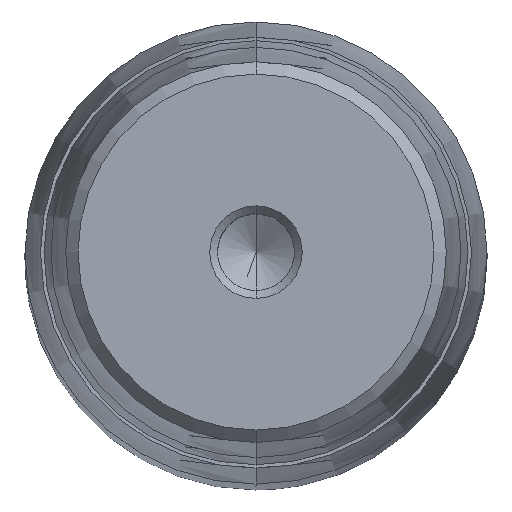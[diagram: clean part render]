
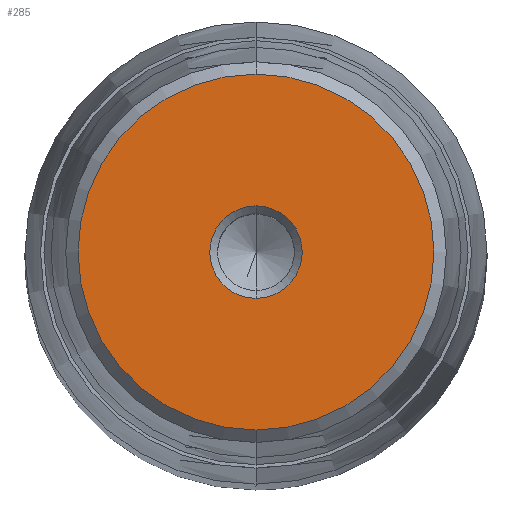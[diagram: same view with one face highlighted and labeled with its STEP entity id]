
A CAD part, top view. The second image highlights one B-rep face of the part: STEP entity #285.
In plain terms, the highlighted planar face has unit normal (0, 0, 1).
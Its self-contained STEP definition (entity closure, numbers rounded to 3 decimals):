
#164=CARTESIAN_POINT('Axis2P3D Location',(0.,0.,48.)) ;
#168=CARTESIAN_POINT('Vertex',(4.,0.,48.)) ;
#170=CARTESIAN_POINT('Vertex',(0.,-4.,48.)) ;
#173=CARTESIAN_POINT('Axis2P3D Location',(0.,0.,48.)) ;
#177=CARTESIAN_POINT('Vertex',(0.,4.,48.)) ;
#228=CARTESIAN_POINT('Axis2P3D Location',(0.,4.,48.)) ;
#233=CARTESIAN_POINT('Axis2P3D Location',(0.,0.,48.)) ;
#237=CARTESIAN_POINT('Vertex',(0.,15.4,48.)) ;
#239=CARTESIAN_POINT('Vertex',(15.4,0.,48.)) ;
#242=CARTESIAN_POINT('Axis2P3D Location',(0.,0.,48.)) ;
#246=CARTESIAN_POINT('Vertex',(-15.4,0.,48.)) ;
#249=CARTESIAN_POINT('Axis2P3D Location',(0.,0.,48.)) ;
#253=CARTESIAN_POINT('Vertex',(0.,-15.4,48.)) ;
#256=CARTESIAN_POINT('Axis2P3D Location',(0.,0.,48.)) ;
#267=CARTESIAN_POINT('Axis2P3D Location',(0.,0.,48.)) ;
#271=CARTESIAN_POINT('Vertex',(-4.,0.,48.)) ;
#274=CARTESIAN_POINT('Axis2P3D Location',(0.,0.,48.)) ;
#165=DIRECTION('Axis2P3D Direction',(-0.,0.,1.)) ;
#174=DIRECTION('Axis2P3D Direction',(-0.,0.,1.)) ;
#229=DIRECTION('Axis2P3D Direction',(0.,0.,-1.)) ;
#230=DIRECTION('Axis2P3D XDirection',(0.,1.,0.)) ;
#234=DIRECTION('Axis2P3D Direction',(0.,0.,-1.)) ;
#243=DIRECTION('Axis2P3D Direction',(0.,0.,-1.)) ;
#250=DIRECTION('Axis2P3D Direction',(0.,0.,-1.)) ;
#257=DIRECTION('Axis2P3D Direction',(0.,0.,-1.)) ;
#268=DIRECTION('Axis2P3D Direction',(0.,0.,-1.)) ;
#275=DIRECTION('Axis2P3D Direction',(0.,0.,-1.)) ;
#166=AXIS2_PLACEMENT_3D('Circle Axis2P3D',#164,#165,$) ;
#175=AXIS2_PLACEMENT_3D('Circle Axis2P3D',#173,#174,$) ;
#231=AXIS2_PLACEMENT_3D('Plane Axis2P3D',#228,#229,#230) ;
#235=AXIS2_PLACEMENT_3D('Circle Axis2P3D',#233,#234,$) ;
#244=AXIS2_PLACEMENT_3D('Circle Axis2P3D',#242,#243,$) ;
#251=AXIS2_PLACEMENT_3D('Circle Axis2P3D',#249,#250,$) ;
#258=AXIS2_PLACEMENT_3D('Circle Axis2P3D',#256,#257,$) ;
#269=AXIS2_PLACEMENT_3D('Circle Axis2P3D',#267,#268,$) ;
#276=AXIS2_PLACEMENT_3D('Circle Axis2P3D',#274,#275,$) ;
#262=ORIENTED_EDGE('',*,*,#241,.F.) ;
#263=ORIENTED_EDGE('',*,*,#248,.F.) ;
#264=ORIENTED_EDGE('',*,*,#255,.F.) ;
#265=ORIENTED_EDGE('',*,*,#260,.F.) ;
#280=ORIENTED_EDGE('',*,*,#172,.T.) ;
#281=ORIENTED_EDGE('',*,*,#273,.T.) ;
#282=ORIENTED_EDGE('',*,*,#278,.T.) ;
#283=ORIENTED_EDGE('',*,*,#179,.T.) ;
#284=FACE_BOUND('',#279,.T.) ;
#285=ADVANCED_FACE('722-40x315x348',(#266,#284),#232,.F.) ;
#167=CIRCLE('generated circle',#166,4.) ;
#176=CIRCLE('generated circle',#175,4.) ;
#236=CIRCLE('generated circle',#235,15.4) ;
#245=CIRCLE('generated circle',#244,15.4) ;
#252=CIRCLE('generated circle',#251,15.4) ;
#259=CIRCLE('generated circle',#258,15.4) ;
#270=CIRCLE('generated circle',#269,4.) ;
#277=CIRCLE('generated circle',#276,4.) ;
#172=EDGE_CURVE('',#169,#171,#167,.F.) ;
#179=EDGE_CURVE('',#178,#169,#176,.F.) ;
#241=EDGE_CURVE('',#238,#240,#236,.T.) ;
#248=EDGE_CURVE('',#247,#238,#245,.T.) ;
#255=EDGE_CURVE('',#254,#247,#252,.T.) ;
#260=EDGE_CURVE('',#240,#254,#259,.T.) ;
#273=EDGE_CURVE('',#171,#272,#270,.T.) ;
#278=EDGE_CURVE('',#272,#178,#277,.T.) ;
#261=EDGE_LOOP('',(#262,#263,#264,#265)) ;
#279=EDGE_LOOP('',(#280,#281,#282,#283)) ;
#266=FACE_OUTER_BOUND('',#261,.T.) ;
#232=PLANE('Plane',#231) ;
#169=VERTEX_POINT('',#168) ;
#171=VERTEX_POINT('',#170) ;
#178=VERTEX_POINT('',#177) ;
#238=VERTEX_POINT('',#237) ;
#240=VERTEX_POINT('',#239) ;
#247=VERTEX_POINT('',#246) ;
#254=VERTEX_POINT('',#253) ;
#272=VERTEX_POINT('',#271) ;
